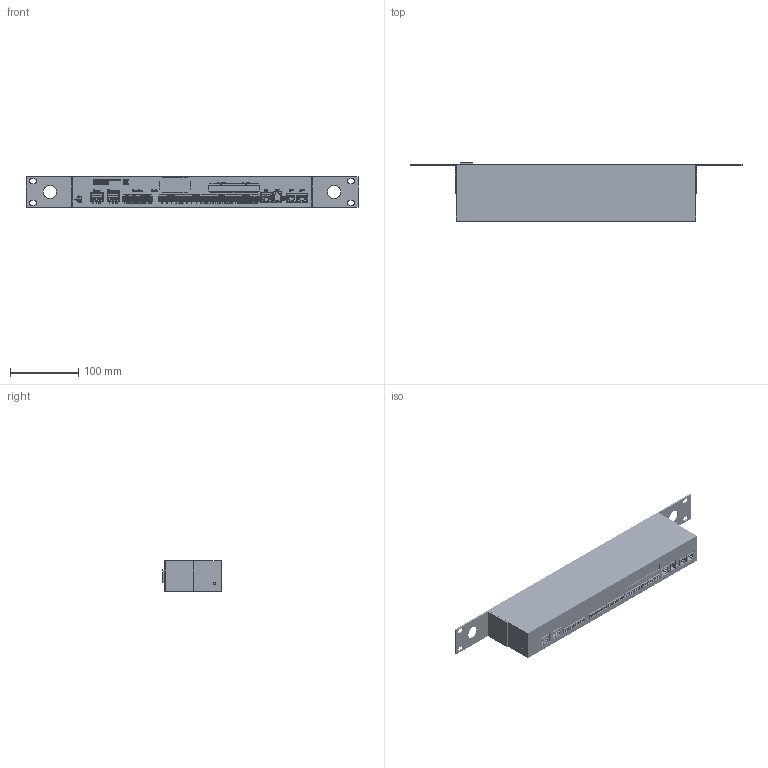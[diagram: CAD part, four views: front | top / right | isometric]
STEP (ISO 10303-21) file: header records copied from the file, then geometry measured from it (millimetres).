
FILE_DESCRIPTION(('STEP AP214'), '1');
FILE_NAME('CCU-1002', '', ('UNSPECIFIED'), ('UNSPECIFIED'), 'ASCON STEP Converter 1.6', 'ASCON Math Kernel', '');
FILE_SCHEMA(('AUTOMOTIVE_DESIGN { 1 0 10303 214 3 1 1}'));
Length unit declared in the file: millimetre
Products named in the file (12): LED-3mm_Round_White; t_mod_4; hdr-1x2th_2.54_5x13; t_mod_5; t_mod_6; t_mod_7; t_mod_8; t_mod_9
Assembly tree (18 placements, depth 2):
  (unnamed)
    (unnamed)
    LED-3mm_Round_White  x3
    t_mod_4  x4
    hdr-1x2th_2.54_5x13
    t_mod_5
    t_mod_6  x2
    t_mod_7
    t_mod_8
    t_mod_9  x2
    (unnamed)
    (unnamed)
Bounding box: 486 x 87.04 x 44.47 mm (x, y, z)
Volume: 1261145.7 mm3; surface area: 167568.8 mm2
Topology: 600 solids, 608 shells, 13703 faces, 36480 edges, 24159 vertices
Faces by surface type: plane 8642, extrusion 4402, cylinder 572, cone 64, torus 16, sphere 7
Full cylindrical faces by diameter (mm): 0.457 x2, 0.78 x4, 1 x24, 1.1 x12, 1.5 x12, 2.2 x52, 2.36 x2, 2.9 x3, 3.2 x3, 3.3 x1, 4.5 x3, 19 x2
Entity records: 469356 total; most frequent: CARTESIAN_POINT 104358, ORIENTED_EDGE 60639, DIRECTION 40835, EDGE_CURVE 30324, VECTOR 24869, LINE 20467, VERTEX_POINT 20191, B_SPLINE_CURVE_WITH_KNOTS 13321
